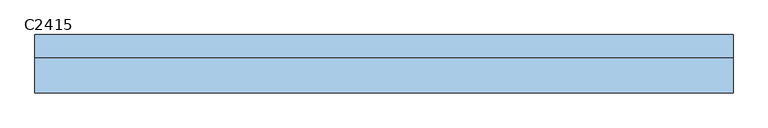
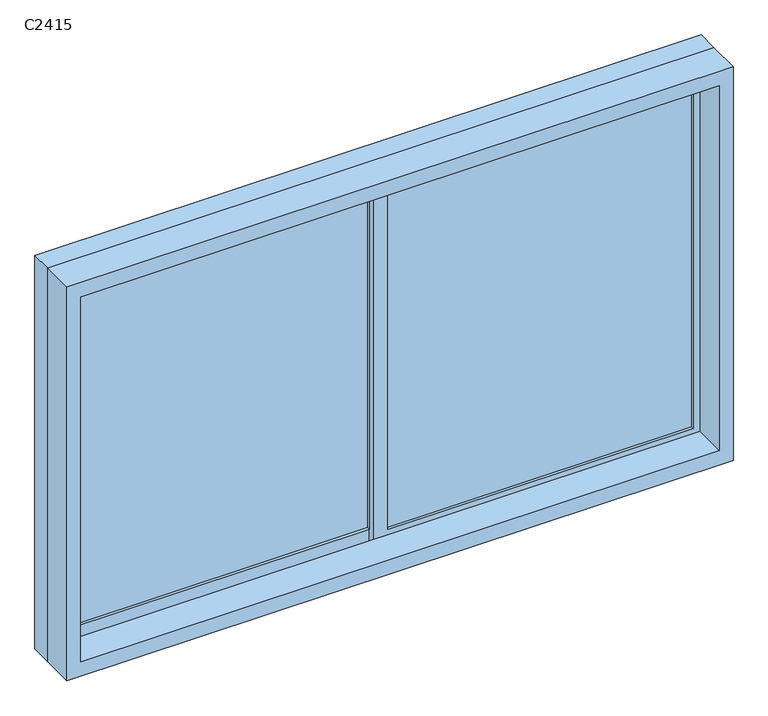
"""IFC4 building model written with IfcOpenShell, lengths in millimetres: window geometry, 推拉窗6 : C2415."""

from ifc_helpers import new_model, si_unit, frame, origin, place, context, project, spatial, polyline, outline, extrude, source, transform, mapped, element, save


def c2415_50dca1b5(model_context):
    return source(origin(), model_context, "Body", "SweptSolid", [
        extrude(outline(polyline([(-1115.475, 3.1265625), (-15.475, 3.1265625), (-15.475, -6.8734375), (-1115.475, -6.8734375), (-1115.475, 3.1265625)])), frame((0.0, 0.0, 675.0), z_axis=(0.0, 0.0, 1.0), x_axis=(1.0, 0.0, 0.0)), (0.0, 0.0, 1.0), 1350.0),
        extrude(outline(polyline([(34.525, -26.8734375), (1134.525, -26.8734375), (1134.525, -36.8734375), (34.525, -36.8734375), (34.525, -26.8734375)])), frame((0.0, 0.0, 675.0), z_axis=(0.0, 0.0, 1.0), x_axis=(1.0, 0.0, 0.0)), (0.0, 0.0, 1.0), 1350.0),
        extrude(outline(polyline([(2100.0, -1190.475), (600.0, -1190.475), (600.0, 1209.525), (2100.0, 1209.525), (2100.0, -1190.475)]), holes=[polyline([(2045.0, 1159.525), (655.0, 1159.525), (655.0, -1140.475), (2045.0, -1140.475), (2045.0, 1159.525)])]), frame((0.0, -166.8734375, 0.0), z_axis=(0.0, 1.0, 0.0), x_axis=(0.0, 0.0, 1.0)), (0.0, 0.0, 1.0), 120.0),
        extrude(outline(polyline([(625.0, 34.525), (2075.0, 34.525), (2075.0, -1165.475), (625.0, -1165.475), (625.0, 34.525)]), holes=[polyline([(675.0, -15.475), (675.0, -1115.475), (2025.0, -1115.475), (2025.0, -15.475), (675.0, -15.475)])]), frame((0.0, -16.8734375, 0.0), z_axis=(0.0, 1.0, 0.0), x_axis=(0.0, 0.0, 1.0)), (0.0, 0.0, 1.0), 30.0),
        extrude(outline(polyline([(2075.0, -15.475), (625.0, -15.475), (625.0, 1184.525), (2075.0, 1184.525), (2075.0, -15.475)]), holes=[polyline([(2025.0, 34.525), (2025.0, 1134.525), (675.0, 1134.525), (675.0, 34.525), (2025.0, 34.525)])]), frame((0.0, -46.8734375, 0.0), z_axis=(0.0, 1.0, 0.0), x_axis=(0.0, 0.0, 1.0)), (0.0, 0.0, 1.0), 30.0),
        extrude(outline(polyline([(2100.0, -1190.475), (600.0, -1190.475), (600.0, 1209.525), (2100.0, 1209.525), (2100.0, -1190.475)]), holes=[polyline([(625.0, -1165.475), (2075.0, -1165.475), (2075.0, 1184.525), (625.0, 1184.525), (625.0, -1165.475)])]), frame((0.0, -46.8734375, 0.0), z_axis=(0.0, 1.0, 0.0), x_axis=(0.0, 0.0, 1.0)), (0.0, 0.0, 1.0), 80.0),
    ])


if __name__ == "__main__":
    model = new_model("IFC4")
    model_context = context("Model", 3, world=origin())
    ifc_project = project(units=[si_unit("LENGTHUNIT", "METRE", prefix="MILLI")], contexts=[model_context])
    site = spatial("IfcSite", under=ifc_project)
    building = spatial("IfcBuilding", under=site)
    placement = place(None, origin())
    c2415_shape = c2415_50dca1b5(model_context)
    element("IfcWindow", 1, ObjectType="推拉窗6 : C2415", at=placement, inside=building, context=model_context, shape_type="MappedRepresentation", body=[
        mapped(c2415_shape, transform((0.0, 0.0, 0.0), x_axis=(1.0, 0.0, 0.0), y_axis=(0.0, 1.0, 0.0), z_axis=(0.0, 0.0, 1.0))),
    ])
    save(model, "model.ifc")
